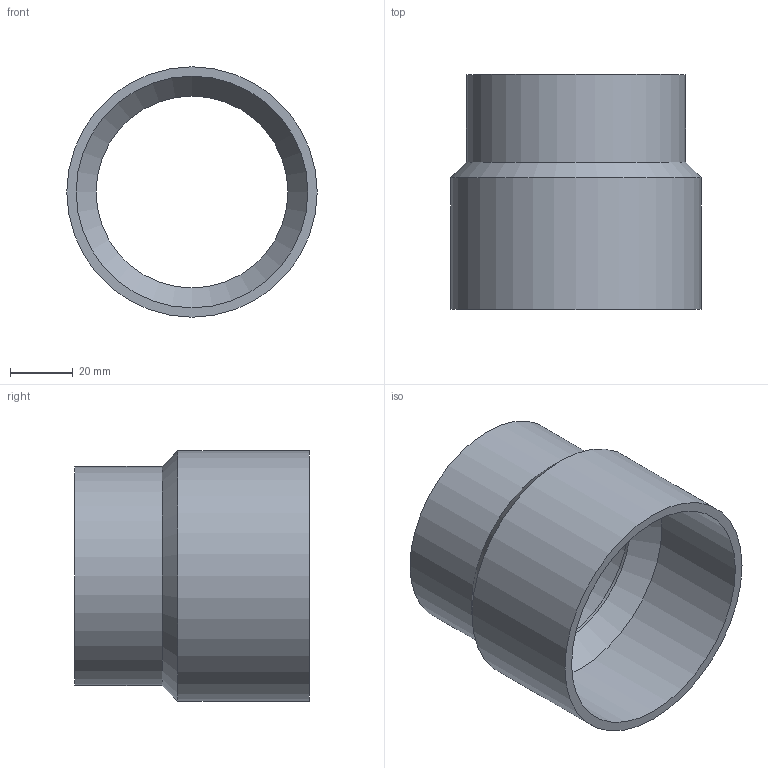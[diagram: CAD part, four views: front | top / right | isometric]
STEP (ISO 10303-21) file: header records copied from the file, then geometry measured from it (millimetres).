
FILE_DESCRIPTION(/* description */ (''),/* implementation_level */ '2;1');
FILE_NAME(/* name */ 'P:\Adapter\Schweißstutzen und Schweißadapter\A 80a_64i.stp',/* time_stamp */ '2019-04-01T13:16:32+02:00',/* author */ ('neufeld'),/* organization */ (''),/* preprocessor_version */ 'ST-DEVELOPER v17',/* originating_system */ 'Autodesk Inventor 2019',/* authorisation */ '');
FILE_SCHEMA (('AUTOMOTIVE_DESIGN { 1 0 10303 214 3 1 1 }'));
Length unit declared in the file: millimetre
Products named in the file (1): A 80A/64I
Bounding box: 80 x 75 x 80 mm (x, y, z)
Volume: 60012.4 mm3; surface area: 36713.5 mm2
Topology: 1 solids, 1 shells, 10 faces, 27 edges, 20 vertices
Faces by surface type: cylinder 5, plane 3, cone 2
Full cylindrical faces by diameter (mm): 61.3 x1, 64.3 x1, 70 x1, 74 x1, 80 x1
Entity records: 382 total; most frequent: DIRECTION 69, CARTESIAN_POINT 58, ORIENTED_EDGE 54, AXIS2_PLACEMENT_3D 31, EDGE_CURVE 27, CIRCLE 20, VERTEX_POINT 20, EDGE_LOOP 13
